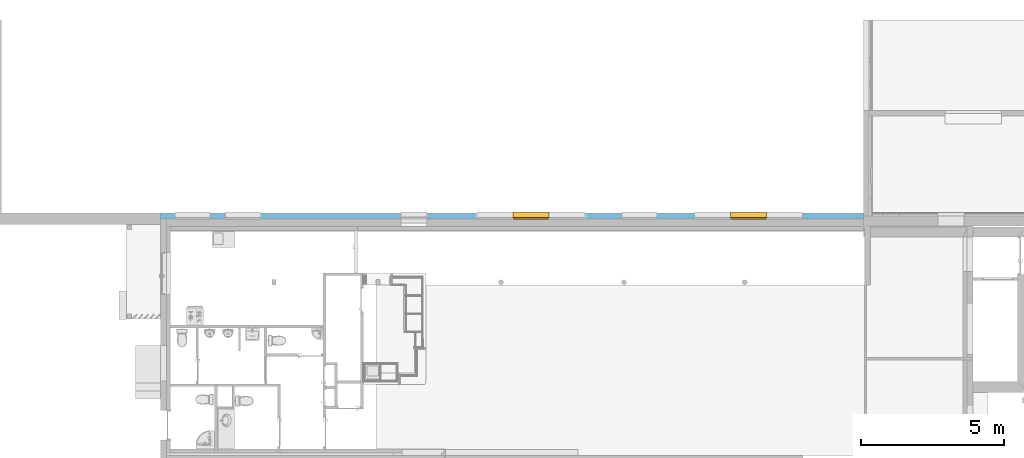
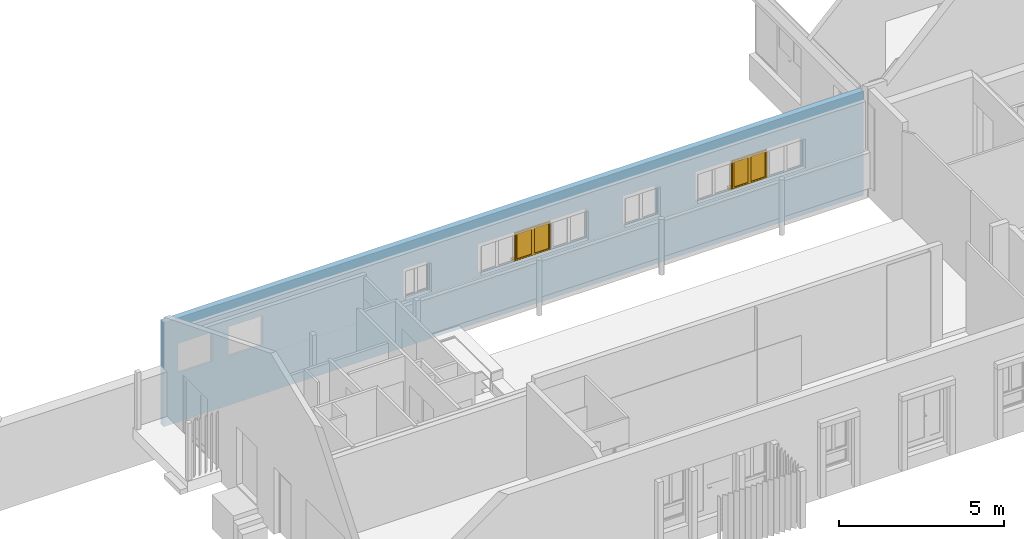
# One storey, part 9 of 34: 2 windows, 16 openings, plus 1 element that does not belong to this part.
"""IFC2X3 building model written with IfcOpenShell, lengths in metres."""

from ifc_helpers import new_model, entity, si_unit, converted_unit, derived_unit, money_unit, direction, frame, origin_with_axes, origin_2d_with_axis, place, context, subcontext, project, spatial, polyline, rectangle, outline, extrude, clip, halfspace, open_shell, faceted_brep, surface_model, source, transform, mapped, material, layer, layer_set, layer_usage, type_object, element, fill, save


model = new_model("IFC2X3")

# Units and contexts
model_context = context("Model", 3, precision=1e-05, world=origin_with_axes(), true_north=direction((0.0, 1.0)))
body_context = subcontext(model_context, "Body", "Model", "MODEL_VIEW")
ifc_project = project(units=[si_unit("LENGTHUNIT", "METRE"), si_unit("AREAUNIT", "SQUARE_METRE"), si_unit("VOLUMEUNIT", "CUBIC_METRE"), converted_unit("PLANEANGLEUNIT", "DEGREE", entity("IfcPlaneAngleMeasure", 0.0174532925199), si_unit("PLANEANGLEUNIT", "RADIAN"), dimensions=[0, 0, 0, 0, 0, 0, 0]), money_unit("CHF"), converted_unit("TIMEUNIT", "Year", entity("IfcTimeMeasure", 31556926.0), si_unit("TIMEUNIT", "SECOND"), dimensions=[0, 0, 1, 0, 0, 0, 0]), si_unit("MASSUNIT", "GRAM", prefix="KILO"), si_unit("THERMODYNAMICTEMPERATUREUNIT", "DEGREE_CELSIUS"), si_unit("LUMINOUSINTENSITYUNIT", "LUMEN"), si_unit("ENERGYUNIT", "JOULE", prefix="MEGA"), derived_unit("THERMALCONDUCTANCEUNIT", [(si_unit("POWERUNIT", "WATT"), 1), (si_unit("LENGTHUNIT", "METRE"), -1), (si_unit("THERMODYNAMICTEMPERATUREUNIT", "KELVIN"), -1)]), derived_unit("SPECIFICHEATCAPACITYUNIT", [(si_unit("ENERGYUNIT", "JOULE"), 1), (si_unit("MASSUNIT", "GRAM", prefix="KILO"), -1), (si_unit("THERMODYNAMICTEMPERATUREUNIT", "KELVIN"), -1)]), derived_unit("MASSDENSITYUNIT", [(si_unit("MASSUNIT", "GRAM", prefix="KILO"), 1), (si_unit("VOLUMEUNIT", "CUBIC_METRE"), -1)])], contexts=[model_context])

# Site, building, storey
site_placement = place(None, origin_with_axes())
site = spatial("IfcSite", under=ifc_project, at=site_placement, Name="Site", CompositionType="ELEMENT")
building_placement = place(site_placement, origin_with_axes())
building = spatial("IfcBuilding", under=site, at=building_placement, Name="Bâtiment", CompositionType="ELEMENT")
storey_placement = place(building_placement, origin_with_axes())
storey = spatial("IfcBuildingStorey", under=building, at=storey_placement, Name="RDC", CompositionType="ELEMENT", Elevation=-5.32907e-15)

# Wall, openings, windows
ifc_material = material(Name="Diagonales 1167258944")
ifc_layer = layer(ifc_material, 0.2, ventilated="UNKNOWN")
ifc_layer_set = layer_set([ifc_layer], Name="Diagonales 1167258944 0.2")
ifc_layer_usage = layer_usage(ifc_layer_set, "AXIS2", "NEGATIVE", 0.0)
wall_type = type_object("IfcWallType", Name="Diagonales 1167258944 200", PredefinedType="NOTDEFINED")
wall_placement = place(storey_placement, frame((1667.41729001, 190.70004191, -0.0599999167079), z_axis=(0.0, 0.0, 1.0), x_axis=(1.0, 0.0, 0.0)))
wall = element("IfcWallStandardCase", 1, at=wall_placement, inside=storey, type_object=wall_type, material=ifc_layer_usage, Name="Mur-002", context=body_context, shape_type="Clipping", body=[
    clip(extrude(outline(polyline([(0.0, -0.2), (24.52, -0.2), (24.52, 0.0), (0.0, 0.0), (0.0, -0.2)])), origin_with_axes(), (0.0, 0.0, 1.0), 3.86), halfspace(frame((0.0, 1.37507086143, 3.43767715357), z_axis=(0.0, -0.371390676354, -0.928476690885), x_axis=(0.0, 0.928476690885, -0.371390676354)), True)),
])
opening_1_placement = place(wall_placement, frame((2.885, 0.0, 1.82999991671), z_axis=(0.0, 0.0, 1.0), x_axis=(1.0, 0.0, 0.0)))
element("IfcOpeningElement", 2, at=opening_1_placement, cuts=wall, Name="Fen-003", context=body_context, shape_type="SweptSolid", body=[
    extrude(rectangle(XDim=1.23, YDim=1.08, at=origin_2d_with_axis()), frame((0.0, -0.15, 0.54), z_axis=(0.0, -1.0, 0.0), x_axis=(-1.0, 0.0, 0.0)), (0.0, 0.0, -1.0), 0.35),
    extrude(rectangle(XDim=1.23, YDim=1.08, at=origin_2d_with_axis()), frame((0.0, -0.15, 0.54), z_axis=(0.0, 1.0, 0.0), x_axis=(-1.0, 0.0, 0.0)), (0.0, 0.0, -1.0), 0.25),
    extrude(rectangle(XDim=1.23, YDim=0.1, at=origin_2d_with_axis()), frame((0.0, -0.185, -0.05), z_axis=(0.0, -1.0, 0.0), x_axis=(-1.0, 0.0, 0.0)), (0.0, 0.0, -1.0), 0.235),
])
opening_2_placement = place(wall_placement, frame((11.625, 0.0, 1.82999991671), z_axis=(0.0, 0.0, 1.0), x_axis=(1.0, 0.0, 0.0)))
element("IfcOpeningElement", 3, at=opening_2_placement, cuts=wall, Name="Fen-003", context=body_context, shape_type="SweptSolid", body=[
    extrude(rectangle(XDim=1.23, YDim=1.08, at=origin_2d_with_axis()), frame((0.0, -0.15, 0.54), z_axis=(0.0, -1.0, 0.0), x_axis=(-1.0, 0.0, 0.0)), (0.0, 0.0, -1.0), 0.35),
    extrude(rectangle(XDim=1.23, YDim=1.08, at=origin_2d_with_axis()), frame((0.0, -0.15, 0.54), z_axis=(0.0, 1.0, 0.0), x_axis=(-1.0, 0.0, 0.0)), (0.0, 0.0, -1.0), 0.25),
    extrude(rectangle(XDim=1.23, YDim=0.1, at=origin_2d_with_axis()), frame((0.0, -0.185, -0.05), z_axis=(0.0, -1.0, 0.0), x_axis=(-1.0, 0.0, 0.0)), (0.0, 0.0, -1.0), 0.235),
])
opening_3_placement = place(wall_placement, frame((14.2023151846, 0.0, 1.82999991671), z_axis=(0.0, 0.0, 1.0), x_axis=(1.0, 0.0, 0.0)))
element("IfcOpeningElement", 4, at=opening_3_placement, cuts=wall, Name="Fen-004", context=body_context, shape_type="SweptSolid", body=[
    extrude(rectangle(XDim=1.30821012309, YDim=1.08, at=origin_2d_with_axis()), frame((0.0, -0.15, 0.54), z_axis=(0.0, -1.0, 0.0), x_axis=(-1.0, 0.0, 0.0)), (0.0, 0.0, -1.0), 0.35),
    extrude(rectangle(XDim=1.30821012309, YDim=1.08, at=origin_2d_with_axis()), frame((0.0, -0.15, 0.54), z_axis=(0.0, 1.0, 0.0), x_axis=(-1.0, 0.0, 0.0)), (0.0, 0.0, -1.0), 0.25),
    extrude(rectangle(XDim=1.30821012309, YDim=0.1, at=origin_2d_with_axis()), frame((0.0, -0.185, -0.05), z_axis=(0.0, -1.0, 0.0), x_axis=(-1.0, 0.0, 0.0)), (0.0, 0.0, -1.0), 0.235),
])
opening_4_placement = place(wall_placement, frame((16.705, 0.0, 1.82999991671), z_axis=(0.0, 0.0, 1.0), x_axis=(1.0, 0.0, 0.0)))
element("IfcOpeningElement", 5, at=opening_4_placement, cuts=wall, Name="Fen-005", context=body_context, shape_type="SweptSolid", body=[
    extrude(rectangle(XDim=1.23, YDim=1.08, at=origin_2d_with_axis()), frame((0.0, -0.15, 0.54), z_axis=(0.0, -1.0, 0.0), x_axis=(-1.0, 0.0, 0.0)), (0.0, 0.0, -1.0), 0.35),
    extrude(rectangle(XDim=1.23, YDim=1.08, at=origin_2d_with_axis()), frame((0.0, -0.15, 0.54), z_axis=(0.0, 1.0, 0.0), x_axis=(-1.0, 0.0, 0.0)), (0.0, 0.0, -1.0), 0.25),
    extrude(rectangle(XDim=1.23, YDim=0.1, at=origin_2d_with_axis()), frame((0.0, -0.185, -0.05), z_axis=(0.0, -1.0, 0.0), x_axis=(-1.0, 0.0, 0.0)), (0.0, 0.0, -1.0), 0.235),
])
opening_5_placement = place(wall_placement, frame((19.245, 0.0, 1.83999991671), z_axis=(0.0, 0.0, 1.0), x_axis=(1.0, 0.0, 0.0)))
element("IfcOpeningElement", 6, at=opening_5_placement, cuts=wall, Name="Fen-006", context=body_context, shape_type="SweptSolid", body=[
    extrude(rectangle(XDim=1.23, YDim=1.08, at=origin_2d_with_axis()), frame((0.0, -0.15, 0.54), z_axis=(0.0, -1.0, 0.0), x_axis=(-1.0, 0.0, 0.0)), (0.0, 0.0, -1.0), 0.35),
    extrude(rectangle(XDim=1.23, YDim=1.08, at=origin_2d_with_axis()), frame((0.0, -0.15, 0.54), z_axis=(0.0, 1.0, 0.0), x_axis=(-1.0, 0.0, 0.0)), (0.0, 0.0, -1.0), 0.25),
    extrude(rectangle(XDim=1.23, YDim=0.1, at=origin_2d_with_axis()), frame((0.0, -0.185, -0.05), z_axis=(0.0, -1.0, 0.0), x_axis=(-1.0, 0.0, 0.0)), (0.0, 0.0, -1.0), 0.235),
])
opening_6_placement = place(wall_placement, frame((21.785, 0.0, 1.82999991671), z_axis=(0.0, 0.0, 1.0), x_axis=(1.0, 0.0, 0.0)))
element("IfcOpeningElement", 7, at=opening_6_placement, cuts=wall, Name="Fen-007", context=body_context, shape_type="SweptSolid", body=[
    extrude(rectangle(XDim=1.23, YDim=1.08, at=origin_2d_with_axis()), frame((0.0, -0.15, 0.54), z_axis=(0.0, -1.0, 0.0), x_axis=(-1.0, 0.0, 0.0)), (0.0, 0.0, -1.0), 0.35),
    extrude(rectangle(XDim=1.23, YDim=1.08, at=origin_2d_with_axis()), frame((0.0, -0.15, 0.54), z_axis=(0.0, 1.0, 0.0), x_axis=(-1.0, 0.0, 0.0)), (0.0, 0.0, -1.0), 0.25),
    extrude(rectangle(XDim=1.23, YDim=0.1, at=origin_2d_with_axis()), frame((0.0, -0.185, -0.05), z_axis=(0.0, -1.0, 0.0), x_axis=(-1.0, 0.0, 0.0)), (0.0, 0.0, -1.0), 0.235),
])
opening_7_placement = place(wall_placement, frame((1.115, 0.0, 1.82999991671), z_axis=(0.0, 0.0, 1.0), x_axis=(1.0, 0.0, 0.0)))
element("IfcOpeningElement", 8, at=opening_7_placement, cuts=wall, Name="Fen-003", context=body_context, shape_type="SweptSolid", body=[
    extrude(rectangle(XDim=1.23, YDim=1.08, at=origin_2d_with_axis()), frame((0.0, -0.15, 0.54), z_axis=(0.0, -1.0, 0.0), x_axis=(-1.0, 0.0, 0.0)), (0.0, 0.0, -1.0), 0.35),
    extrude(rectangle(XDim=1.23, YDim=1.08, at=origin_2d_with_axis()), frame((0.0, -0.15, 0.54), z_axis=(0.0, 1.0, 0.0), x_axis=(-1.0, 0.0, 0.0)), (0.0, 0.0, -1.0), 0.25),
    extrude(rectangle(XDim=1.23, YDim=0.1, at=origin_2d_with_axis()), frame((0.0, -0.185, -0.05), z_axis=(0.0, -1.0, 0.0), x_axis=(-1.0, 0.0, 0.0)), (0.0, 0.0, -1.0), 0.235),
])
opening_8_placement = place(wall_placement, frame((12.9249202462, 0.0, 1.82999991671), z_axis=(0.0, 0.0, 1.0), x_axis=(1.0, 0.0, 0.0)))
opening_8 = element("IfcOpeningElement", 9, at=opening_8_placement, cuts=wall, Name="Fen-003", context=body_context, shape_type="SweptSolid", body=[
    extrude(rectangle(XDim=1.257, YDim=1.08, at=origin_2d_with_axis()), frame((0.0, -0.15, 0.54), z_axis=(0.0, -1.0, 0.0), x_axis=(-1.0, 0.0, 0.0)), (0.0, 0.0, -1.0), 0.35),
    extrude(rectangle(XDim=1.257, YDim=1.08, at=origin_2d_with_axis()), frame((0.0, -0.15, 0.54), z_axis=(0.0, 1.0, 0.0), x_axis=(-1.0, 0.0, 0.0)), (0.0, 0.0, -1.0), 0.25),
    extrude(rectangle(XDim=1.257, YDim=0.1, at=origin_2d_with_axis()), frame((0.0, -0.185, -0.05), z_axis=(0.0, -1.0, 0.0), x_axis=(-1.0, 0.0, 0.0)), (0.0, 0.0, -1.0), 0.235),
])
opening_9_placement = place(wall_placement, frame((20.5155, 0.0, 1.82999991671), z_axis=(0.0, 0.0, 1.0), x_axis=(1.0, 0.0, 0.0)))
opening_9 = element("IfcOpeningElement", 10, at=opening_9_placement, cuts=wall, Name="Fen-003", context=body_context, shape_type="SweptSolid", body=[
    extrude(rectangle(XDim=1.257, YDim=1.08, at=origin_2d_with_axis()), frame((0.0, -0.15, 0.54), z_axis=(0.0, -1.0, 0.0), x_axis=(-1.0, 0.0, 0.0)), (0.0, 0.0, -1.0), 0.35),
    extrude(rectangle(XDim=1.257, YDim=1.08, at=origin_2d_with_axis()), frame((0.0, -0.15, 0.54), z_axis=(0.0, 1.0, 0.0), x_axis=(-1.0, 0.0, 0.0)), (0.0, 0.0, -1.0), 0.25),
    extrude(rectangle(XDim=1.257, YDim=0.1, at=origin_2d_with_axis()), frame((0.0, -0.185, -0.05), z_axis=(0.0, -1.0, 0.0), x_axis=(-1.0, 0.0, 0.0)), (0.0, 0.0, -1.0), 0.235),
])
opening_10_placement = place(wall_placement, frame((14.1819202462, 0.0, 1.82999991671), z_axis=(0.0, 0.0, 1.0), x_axis=(1.0, 0.0, 0.0)))
element("IfcOpeningElement", 11, at=opening_10_placement, cuts=wall, Name="Fen-003", context=body_context, shape_type="SweptSolid", body=[
    extrude(rectangle(XDim=1.257, YDim=1.08, at=origin_2d_with_axis()), frame((0.0, -0.15, 0.54), z_axis=(0.0, -1.0, 0.0), x_axis=(-1.0, 0.0, 0.0)), (0.0, 0.0, -1.0), 0.35),
    extrude(rectangle(XDim=1.257, YDim=1.08, at=origin_2d_with_axis()), frame((0.0, -0.15, 0.54), z_axis=(0.0, 1.0, 0.0), x_axis=(-1.0, 0.0, 0.0)), (0.0, 0.0, -1.0), 0.25),
    extrude(rectangle(XDim=1.257, YDim=0.1, at=origin_2d_with_axis()), frame((0.0, -0.185, -0.05), z_axis=(0.0, -1.0, 0.0), x_axis=(-1.0, 0.0, 0.0)), (0.0, 0.0, -1.0), 0.235),
])
opening_11_placement = place(wall_placement, frame((11.6679202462, 0.0, 1.82999991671), z_axis=(0.0, 0.0, 1.0), x_axis=(1.0, 0.0, 0.0)))
element("IfcOpeningElement", 12, at=opening_11_placement, cuts=wall, Name="Fen-003", context=body_context, shape_type="SweptSolid", body=[
    extrude(rectangle(XDim=1.257, YDim=1.08, at=origin_2d_with_axis()), frame((0.0, -0.15, 0.54), z_axis=(0.0, -1.0, 0.0), x_axis=(-1.0, 0.0, 0.0)), (0.0, 0.0, -1.0), 0.35),
    extrude(rectangle(XDim=1.257, YDim=1.08, at=origin_2d_with_axis()), frame((0.0, -0.15, 0.54), z_axis=(0.0, 1.0, 0.0), x_axis=(-1.0, 0.0, 0.0)), (0.0, 0.0, -1.0), 0.25),
    extrude(rectangle(XDim=1.257, YDim=0.1, at=origin_2d_with_axis()), frame((0.0, -0.185, -0.05), z_axis=(0.0, -1.0, 0.0), x_axis=(-1.0, 0.0, 0.0)), (0.0, 0.0, -1.0), 0.235),
])
opening_12_placement = place(wall_placement, frame((21.7725, 0.0, 1.82999991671), z_axis=(0.0, 0.0, 1.0), x_axis=(1.0, 0.0, 0.0)))
element("IfcOpeningElement", 13, at=opening_12_placement, cuts=wall, Name="Fen-003", context=body_context, shape_type="SweptSolid", body=[
    extrude(rectangle(XDim=1.257, YDim=1.08, at=origin_2d_with_axis()), frame((0.0, -0.15, 0.54), z_axis=(0.0, -1.0, 0.0), x_axis=(-1.0, 0.0, 0.0)), (0.0, 0.0, -1.0), 0.35),
    extrude(rectangle(XDim=1.257, YDim=1.08, at=origin_2d_with_axis()), frame((0.0, -0.15, 0.54), z_axis=(0.0, 1.0, 0.0), x_axis=(-1.0, 0.0, 0.0)), (0.0, 0.0, -1.0), 0.25),
    extrude(rectangle(XDim=1.257, YDim=0.1, at=origin_2d_with_axis()), frame((0.0, -0.185, -0.05), z_axis=(0.0, -1.0, 0.0), x_axis=(-1.0, 0.0, 0.0)), (0.0, 0.0, -1.0), 0.235),
])
opening_13_placement = place(wall_placement, frame((19.2585, 0.0, 1.82999991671), z_axis=(0.0, 0.0, 1.0), x_axis=(1.0, 0.0, 0.0)))
element("IfcOpeningElement", 14, at=opening_13_placement, cuts=wall, Name="Fen-003", context=body_context, shape_type="SweptSolid", body=[
    extrude(rectangle(XDim=1.257, YDim=1.08, at=origin_2d_with_axis()), frame((0.0, -0.15, 0.54), z_axis=(0.0, -1.0, 0.0), x_axis=(-1.0, 0.0, 0.0)), (0.0, 0.0, -1.0), 0.35),
    extrude(rectangle(XDim=1.257, YDim=1.08, at=origin_2d_with_axis()), frame((0.0, -0.15, 0.54), z_axis=(0.0, 1.0, 0.0), x_axis=(-1.0, 0.0, 0.0)), (0.0, 0.0, -1.0), 0.25),
    extrude(rectangle(XDim=1.257, YDim=0.1, at=origin_2d_with_axis()), frame((0.0, -0.185, -0.05), z_axis=(0.0, -1.0, 0.0), x_axis=(-1.0, 0.0, 0.0)), (0.0, 0.0, -1.0), 0.235),
])
opening_14_placement = place(wall_placement, frame((8.84769470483, 0.0, 1.82999991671), z_axis=(0.0, 0.0, 1.0), x_axis=(1.0, 0.0, 0.0)))
element("IfcOpeningElement", 15, at=opening_14_placement, cuts=wall, Name="Fen-003", context=body_context, shape_type="SweptSolid", body=[
    extrude(rectangle(XDim=0.91, YDim=1.08, at=origin_2d_with_axis()), frame((0.0, -0.15, 0.54), z_axis=(0.0, 1.0, 0.0), x_axis=(-1.0, 0.0, 0.0)), (0.0, 0.0, 1.0), 0.35),
    extrude(rectangle(XDim=0.91, YDim=1.08, at=origin_2d_with_axis()), frame((0.0, -0.15, 0.54), z_axis=(0.0, -1.0, 0.0), x_axis=(-1.0, 0.0, 0.0)), (0.0, 0.0, 1.0), 0.25),
    extrude(rectangle(XDim=0.91, YDim=0.1, at=origin_2d_with_axis()), frame((0.0, -0.185, -0.05), z_axis=(0.0, 1.0, 0.0), x_axis=(-1.0, 0.0, 0.0)), (0.0, 0.0, 1.0), 0.235),
])
opening_15_placement = place(wall_placement, frame((8.84769470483, 0.0, 1.77), z_axis=(0.0, 0.0, 1.0), x_axis=(1.0, 0.0, 0.0)))
element("IfcOpeningElement", 16, at=opening_15_placement, cuts=wall, Name="Por-005", context=body_context, shape_type="SweptSolid", body=[
    extrude(rectangle(XDim=0.91, YDim=1.1, at=origin_2d_with_axis()), frame((0.0, -0.1, 0.55), z_axis=(0.0, 1.0, 0.0), x_axis=(-1.0, 0.0, 0.0)), (0.0, 0.0, 1.0), 0.3),
    extrude(rectangle(XDim=0.91, YDim=1.1, at=origin_2d_with_axis()), frame((0.0, -0.1, 0.55), z_axis=(0.0, -1.0, 0.0), x_axis=(-1.0, 0.0, 0.0)), (0.0, 0.0, 1.0), 0.3),
])
opening_16_placement = place(wall_placement, frame((8.84769470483, 0.0, 1.77), z_axis=(0.0, 0.0, 1.0), x_axis=(1.0, 0.0, 0.0)))
element("IfcOpeningElement", 17, at=opening_16_placement, cuts=wall, Name="Por-005", context=body_context, shape_type="SweptSolid", body=[
    extrude(rectangle(XDim=0.91, YDim=1.1, at=origin_2d_with_axis()), frame((0.0, -0.1, 0.55), z_axis=(0.0, -1.0, 0.0), x_axis=(1.0, 0.0, 0.0)), (0.0, 0.0, -1.0), 0.3),
    extrude(rectangle(XDim=0.91, YDim=1.1, at=origin_2d_with_axis()), frame((0.0, -0.1, 0.55), z_axis=(0.0, 1.0, 0.0), x_axis=(1.0, 0.0, 0.0)), (0.0, 0.0, -1.0), 0.3),
])
window_style = type_object("IfcWindowStyle", Name="Fenêtre châssis double 25", ConstructionType="NOTDEFINED", OperationType="DOUBLE_PANEL_VERTICAL", ParameterTakesPrecedence=False, Sizeable=False)
shared_shape = source(origin_with_axes(), body_context, "Body", "SurfaceModel", [
    faceted_brep([(-0.6285, -0.015, 0.0), (-0.6285, -0.025, 0.0), (0.6285, -0.025, 0.0), (0.6285, -0.015, 0.0), (-0.6285, -0.015, -0.1), (-0.6285, -0.245, -0.1), (-0.6285, -0.245, -0.01), (-0.6285, -0.025, -0.01), (0.6285, -0.025, -0.01), (0.6285, -0.245, -0.01), (0.6285, -0.245, -0.1), (0.6285, -0.015, -0.1)], [[[0, 1, 2, 3]], [[0, 4, 5, 6, 7, 1]], [[1, 7, 8, 2]], [[3, 2, 8, 9, 10, 11]], [[4, 0, 3, 11]], [[5, 4, 11, 10]], [[6, 5, 10, 9]], [[7, 6, 9, 8]]]),
    faceted_brep([(-0.6035, 0.0, 1.03), (-0.6285, 0.0, 1.03), (-0.6285, -0.05, 1.03), (-0.5785, -0.05, 1.03), (-0.5785, -0.025, 1.03), (-0.6035, -0.025, 1.03), (-0.6035, 0.0, 0.05), (-0.6285, 0.0, 0.05), (-0.6285, -0.05, 0.05), (-0.5785, -0.05, 0.05), (-0.5785, -0.025, 0.05), (-0.6035, -0.025, 0.05)], [[[0, 1, 2, 3, 4, 5]], [[6, 7, 1, 0]], [[1, 7, 8, 2]], [[2, 8, 9, 3]], [[4, 3, 9, 10]], [[10, 11, 5, 4]], [[5, 11, 6, 0]], [[11, 10, 9, 8, 7, 6]]]),
    faceted_brep([(0.5785, -0.025, 1.03), (0.5785, -0.05, 1.03), (0.6285, -0.05, 1.03), (0.6285, 0.0, 1.03), (0.6035, 0.0, 1.03), (0.6035, -0.025, 1.03), (0.5785, -0.025, 0.05), (0.5785, -0.05, 0.05), (0.6285, -0.05, 0.05), (0.6285, 0.0, 0.05), (0.6035, 0.0, 0.05), (0.6035, -0.025, 0.05)], [[[0, 1, 2, 3, 4, 5]], [[6, 7, 1, 0]], [[8, 2, 1, 7]], [[9, 3, 2, 8]], [[4, 3, 9, 10]], [[10, 11, 5, 4]], [[5, 11, 6, 0]], [[11, 10, 9, 8, 7, 6]]]),
    faceted_brep([(0.5785, -0.025, 0.05), (0.5785, -0.05, 0.05), (0.6285, -0.05, 0.05), (0.6285, 0.0, 0.05), (0.6035, 0.0, 0.05), (0.6035, -0.025, 0.05), (-0.5785, -0.025, 0.05), (-0.5785, -0.05, 0.05), (-0.6285, -0.05, 0.05), (-0.6285, -0.05, 0.0), (0.6285, -0.05, 0.0), (0.6285, 0.0, 0.0), (-0.6035, 0.0, 0.025), (0.6035, 0.0, 0.025), (-0.6285, 0.0, 0.0), (-0.6285, 0.0, 0.05), (-0.6035, 0.0, 0.05), (0.6035, -0.025, 0.025), (-0.6035, -0.025, 0.025), (-0.6035, -0.025, 0.05)], [[[0, 1, 2, 3, 4, 5]], [[6, 7, 1, 0]], [[8, 9, 10, 2, 1, 7]], [[11, 3, 2, 10]], [[12, 13, 4, 3, 11, 14, 15, 16]], [[13, 17, 5, 4]], [[5, 17, 18, 19, 6, 0]], [[19, 16, 15, 8, 7, 6]], [[15, 14, 9, 8]], [[14, 11, 10, 9]], [[12, 18, 17, 13]], [[19, 18, 12, 16]]]),
    faceted_brep([(-0.6035, 0.0, 1.03), (-0.6285, 0.0, 1.03), (-0.6285, 0.0, 1.08), (0.6285, 0.0, 1.08), (0.6285, 0.0, 1.03), (0.6035, 0.0, 1.03), (0.6035, 0.0, 1.055), (-0.6035, 0.0, 1.055), (-0.6035, -0.025, 1.03), (-0.5785, -0.025, 1.03), (-0.5785, -0.05, 1.03), (-0.6285, -0.05, 1.03), (-0.6285, -0.05, 1.08), (0.6285, -0.05, 1.08), (0.6285, -0.05, 1.03), (0.6035, -0.025, 1.03), (0.5785, -0.05, 1.03), (0.5785, -0.025, 1.03), (0.6035, -0.025, 1.055), (-0.6035, -0.025, 1.055)], [[[0, 1, 2, 3, 4, 5, 6, 7]], [[8, 9, 10, 11, 1, 0]], [[2, 1, 11, 12]], [[3, 2, 12, 13]], [[4, 3, 13, 14]], [[15, 5, 4, 14, 16, 17]], [[5, 15, 18, 6]], [[6, 18, 19, 7]], [[7, 19, 8, 0]], [[17, 9, 8, 19, 18, 15]], [[17, 16, 10, 9]], [[14, 13, 12, 11, 10, 16]]]),
    faceted_brep([(-0.5535, -0.025, 1.005), (-0.5535, 0.025, 1.005), (-0.6035, 0.025, 1.005), (-0.6035, -0.025, 1.005), (-0.5535, -0.025, 0.075), (-0.5535, 0.025, 0.075), (-0.6035, 0.025, 0.075), (-0.6035, -0.025, 0.075)], [[[0, 1, 2, 3]], [[4, 5, 1, 0]], [[1, 5, 6, 2]], [[3, 2, 6, 7]], [[0, 3, 7, 4]], [[7, 6, 5, 4]]]),
    faceted_brep([(-0.05, -0.025, 0.075), (-0.05, 0.025, 0.075), (0.0, 0.025, 0.075), (0.0, -0.025, 0.075), (-0.05, -0.025, 1.005), (-0.05, 0.025, 1.005), (0.0, 0.025, 1.005), (0.0, -0.025, 1.005)], [[[0, 1, 2, 3]], [[4, 5, 1, 0]], [[1, 5, 6, 2]], [[3, 2, 6, 7]], [[0, 3, 7, 4]], [[7, 6, 5, 4]]]),
    faceted_brep([(0.0, -0.025, 0.025), (0.0, 0.025, 0.025), (0.0, 0.025, 0.075), (0.0, -0.025, 0.075), (-0.6035, -0.025, 0.025), (-0.6035, 0.025, 0.025), (-0.6035, 0.025, 0.075), (-0.5535, 0.025, 0.075), (-0.05, 0.025, 0.075), (-0.05, -0.025, 0.075), (-0.5535, -0.025, 0.075), (-0.6035, -0.025, 0.075)], [[[0, 1, 2, 3]], [[4, 5, 1, 0]], [[1, 5, 6, 7, 8, 2]], [[3, 2, 8, 9]], [[0, 3, 9, 10, 11, 4]], [[11, 6, 5, 4]], [[10, 7, 6, 11]], [[9, 8, 7, 10]]]),
    faceted_brep([(-0.6035, -0.025, 1.055), (-0.6035, 0.025, 1.055), (-0.6035, 0.025, 1.005), (-0.6035, -0.025, 1.005), (0.0, -0.025, 1.055), (0.0, 0.025, 1.055), (0.0, 0.025, 1.005), (-0.05, 0.025, 1.005), (-0.5535, 0.025, 1.005), (-0.5535, -0.025, 1.005), (-0.05, -0.025, 1.005), (0.0, -0.025, 1.005)], [[[0, 1, 2, 3]], [[4, 5, 1, 0]], [[1, 5, 6, 7, 8, 2]], [[3, 2, 8, 9]], [[0, 3, 9, 10, 11, 4]], [[11, 6, 5, 4]], [[10, 7, 6, 11]], [[9, 8, 7, 10]]]),
    surface_model("IfcShellBasedSurfaceModel", [(-0.5535, -0.01, 0.075), (-0.05, -0.01, 0.075), (-0.05, -0.01, 1.005), (-0.5535, -0.01, 1.005)], [open_shell([[[0, 1, 2, 3]]])]),
    surface_model("IfcShellBasedSurfaceModel", [(-0.5535, 0.01, 0.075), (-0.5535, 0.01, 1.005), (-0.05, 0.01, 1.005), (-0.05, 0.01, 0.075)], [open_shell([[[0, 1, 2, 3]]])]),
    faceted_brep([(0.05, -0.025, 1.005), (0.05, 0.025, 1.005), (0.0, 0.025, 1.005), (0.0, -0.025, 1.005), (0.05, -0.025, 0.075), (0.05, 0.025, 0.075), (0.0, 0.025, 0.075), (0.0, -0.025, 0.075)], [[[0, 1, 2, 3]], [[4, 5, 1, 0]], [[1, 5, 6, 2]], [[3, 2, 6, 7]], [[0, 3, 7, 4]], [[7, 6, 5, 4]]]),
    faceted_brep([(0.5535, -0.025, 0.075), (0.5535, 0.025, 0.075), (0.6035, 0.025, 0.075), (0.6035, -0.025, 0.075), (0.5535, -0.025, 1.005), (0.5535, 0.025, 1.005), (0.6035, 0.025, 1.005), (0.6035, -0.025, 1.005)], [[[0, 1, 2, 3]], [[4, 5, 1, 0]], [[1, 5, 6, 2]], [[3, 2, 6, 7]], [[0, 3, 7, 4]], [[7, 6, 5, 4]]]),
    faceted_brep([(0.6035, -0.025, 0.025), (0.6035, 0.025, 0.025), (0.6035, 0.025, 0.075), (0.6035, -0.025, 0.075), (0.0, -0.025, 0.025), (0.0, 0.025, 0.025), (0.0, 0.025, 0.075), (0.05, 0.025, 0.075), (0.5535, 0.025, 0.075), (0.5535, -0.025, 0.075), (0.05, -0.025, 0.075), (0.0, -0.025, 0.075)], [[[0, 1, 2, 3]], [[4, 5, 1, 0]], [[1, 5, 6, 7, 8, 2]], [[3, 2, 8, 9]], [[0, 3, 9, 10, 11, 4]], [[11, 6, 5, 4]], [[10, 7, 6, 11]], [[9, 8, 7, 10]]]),
    faceted_brep([(0.0, -0.025, 1.055), (0.0, 0.025, 1.055), (0.0, 0.025, 1.005), (0.0, -0.025, 1.005), (0.6035, -0.025, 1.055), (0.6035, 0.025, 1.055), (0.6035, 0.025, 1.005), (0.5535, 0.025, 1.005), (0.05, 0.025, 1.005), (0.05, -0.025, 1.005), (0.5535, -0.025, 1.005), (0.6035, -0.025, 1.005)], [[[0, 1, 2, 3]], [[4, 5, 1, 0]], [[1, 5, 6, 7, 8, 2]], [[3, 2, 8, 9]], [[0, 3, 9, 10, 11, 4]], [[11, 6, 5, 4]], [[10, 7, 6, 11]], [[9, 8, 7, 10]]]),
    surface_model("IfcShellBasedSurfaceModel", [(0.05, -0.01, 0.075), (0.5535, -0.01, 0.075), (0.5535, -0.01, 1.005), (0.05, -0.01, 1.005)], [open_shell([[[0, 1, 2, 3]]])]),
    surface_model("IfcShellBasedSurfaceModel", [(0.05, 0.01, 0.075), (0.05, 0.01, 1.005), (0.5535, 0.01, 1.005), (0.5535, 0.01, 0.075)], [open_shell([[[0, 1, 2, 3]]])]),
])
window_1_placement = place(opening_8_placement, frame((0.6285, 0.0, 0.0), z_axis=(0.0, 0.0, 1.0), x_axis=(-1.0, 0.0, 0.0)))
window_1 = element("IfcWindow", 18, at=window_1_placement, inside=storey, type_object=window_style, Name="Fen-003", OverallHeight=1.08, OverallWidth=1.257, context=body_context, shape_type="MappedRepresentation", body=[
    mapped(shared_shape, transform((0.6285, 0.2, 0.0))),
])
fill(opening_8, window_1)
window_2_placement = place(opening_9_placement, frame((0.6285, 0.0, 0.0), z_axis=(0.0, 0.0, 1.0), x_axis=(-1.0, 0.0, 0.0)))
window_2 = element("IfcWindow", 19, at=window_2_placement, inside=storey, type_object=window_style, Name="Fen-003", OverallHeight=1.08, OverallWidth=1.257, context=body_context, shape_type="MappedRepresentation", body=[
    mapped(shared_shape, transform((0.6285, 0.2, 0.0))),
])
fill(opening_9, window_2)

save(model, "model.ifc")
